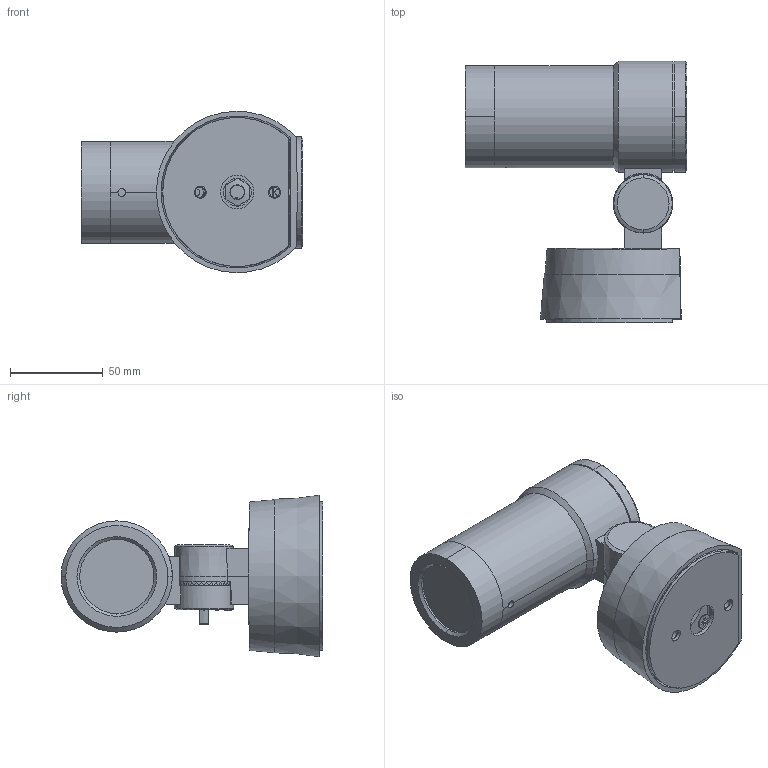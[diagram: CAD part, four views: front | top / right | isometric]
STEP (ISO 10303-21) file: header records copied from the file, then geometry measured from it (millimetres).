
FILE_DESCRIPTION((''),'2;1');
FILE_NAME('7TM_ASM','2024-09-02T',('C028'),(''),'CREO PARAMETRIC BY PTC INC, 2014190','CREO PARAMETRIC BY PTC INC, 2014190','');
FILE_SCHEMA(('CONFIG_CONTROL_DESIGN'));
Products named in the file (26): PRT0025_1_1_1_19_1; 0_GB_2_1_1_58_1; ADMI1FE8623B8EUW_5_1; 0_GB_COVER_2_1_1_1; PRT0033_1_1_1_1; SCREW-M12_2_1_1_1; 3TO__1; M6_18_2; M4_L15_CHENG_TOU_1_4_1; FPM_1; ASM0001_ASM_ASM_1_ASM_1_ASM_1_A_ASM; GB-M3X5__3; BACK-COVER-RUBBER-M_3; FACE-RUBBER-M_3; BODY_M_ANY_3; 2DF-DRIVER-BOX_3; B97; REFLECTOR-COVER-M_3; 3TN__________-18242_ASM_3_ASM; 3TB_____ASM_3_ASM; 3TA_________3; 3TN____-174294_3; 3TN____-96773_3; 3TN____-19394_3; 3TN_________ASM_3_ASM; 7TM_ASM
Assembly tree (34 placements, depth 4):
  7TM_ASM
    ASM0001_ASM_ASM_1_ASM_1_ASM_1_A_ASM
      PRT0025_1_1_1_19_1
      0_GB_2_1_1_58_1
      ADMI1FE8623B8EUW_5_1
      0_GB_COVER_2_1_1_1
      PRT0033_1_1_1_1  x4
      SCREW-M12_2_1_1_1
      3TO__1
      M6_18_2  x2
      M4_L15_CHENG_TOU_1_4_1  x4
      FPM_1
    3TN_________ASM_3_ASM
      3TB_____ASM_3_ASM
        GB-M3X5__3  x2
        BACK-COVER-RUBBER-M_3
        FACE-RUBBER-M_3
        BODY_M_ANY_3
        2DF-DRIVER-BOX_3
        B97
        REFLECTOR-COVER-M_3
        3TN__________-18242_ASM_3_ASM
      3TA_________3
      3TN__________-18242_ASM_3_ASM
      3TN____-174294_3
      3TN____-96773_3
      3TN____-19394_3
Bounding box: 119.7 x 141.12 x 87.05 mm (x, y, z)
Volume: 262889.6 mm3; surface area: 170714.5 mm2
Topology: 29 solids, 29 shells, 1966 faces, 5379 edges, 3553 vertices
Faces by surface type: plane 827, cylinder 624, bspline 255, cone 194, torus 51, sphere 15
Entity records: 87889 total; most frequent: CARTESIAN_POINT 45721, ORIENTED_EDGE 9132, DIRECTION 8131, EDGE_CURVE 4566, VERTEX_POINT 3000, AXIS2_PLACEMENT_3D 2943, VECTOR 2245, LINE 2245
